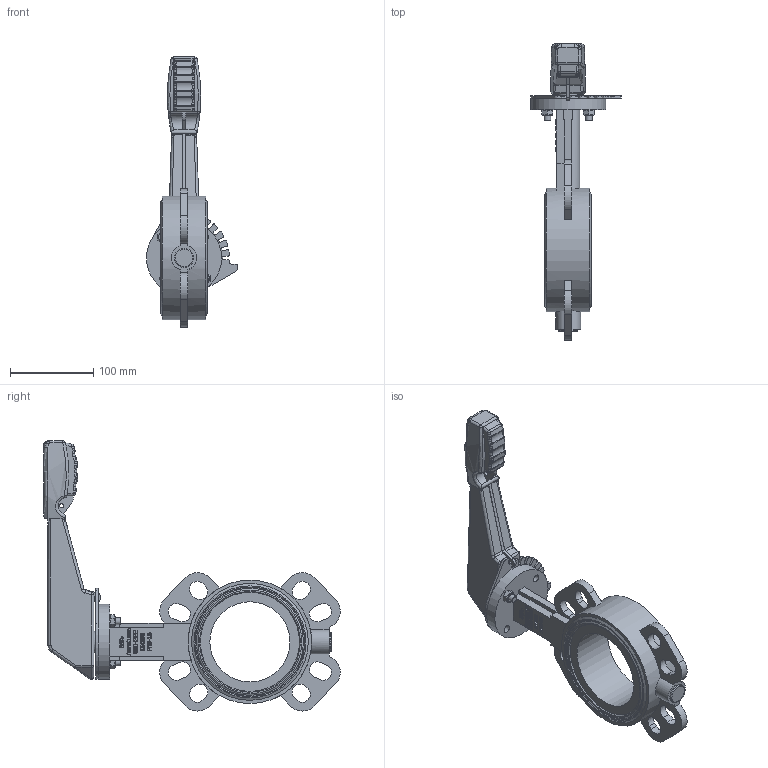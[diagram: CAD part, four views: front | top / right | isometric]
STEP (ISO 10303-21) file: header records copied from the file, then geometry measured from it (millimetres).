
FILE_DESCRIPTION((''),'2;1');
FILE_NAME('K:\Inventor\1 Artikel\10) Absperrklappen\10a) manuell\Witzel\830-GGG, Euronomic BA\830-GGG, DN100\830-GGG, DN100, 3D\830-GGG, DN100, PN6-16, HH, 3D.stp','2019-08-14T10:04:22',('claudia'),(''),'Autodesk Inventor 2013','Autodesk Inventor 2013','');
FILE_SCHEMA(('AUTOMOTIVE_DESIGN { 1 0 10303 214 1 1 1 1 }'));
Length unit declared in the file: millimetre
Products named in the file (1): Bauteil4
Bounding box: 109 x 355.19 x 323.68 mm (x, y, z)
Volume: 1189477 mm3; surface area: 165097.9 mm2
Topology: 1 solids, 5 shells, 1281 faces, 3439 edges, 2246 vertices
Faces by surface type: plane 556, bspline 457, cylinder 168, cone 50, torus 36, sphere 14
Full cylindrical faces by diameter (mm): 5 x1, 7.233 x2, 8 x4, 9 x4, 12 x2, 15.8 x2, 23 x1, 25 x1, 42 x1, 90 x1, 96 x1, 148 x1
Entity records: 47916 total; most frequent: CARTESIAN_POINT 18735, ORIENTED_EDGE 6724, DIRECTION 4524, EDGE_CURVE 3362, VERTEX_POINT 2231, VECTOR 1806, LINE 1806, EDGE_LOOP 1445
